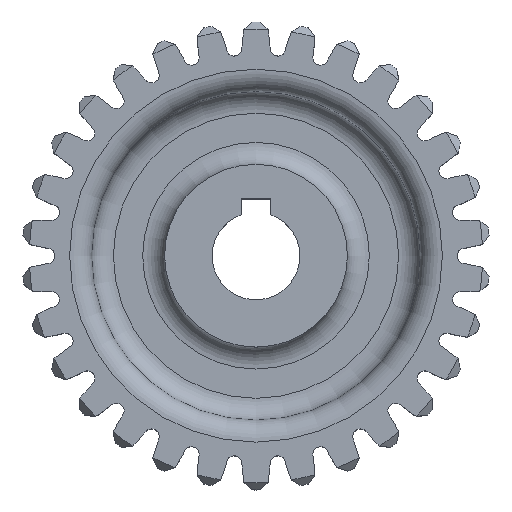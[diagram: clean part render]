
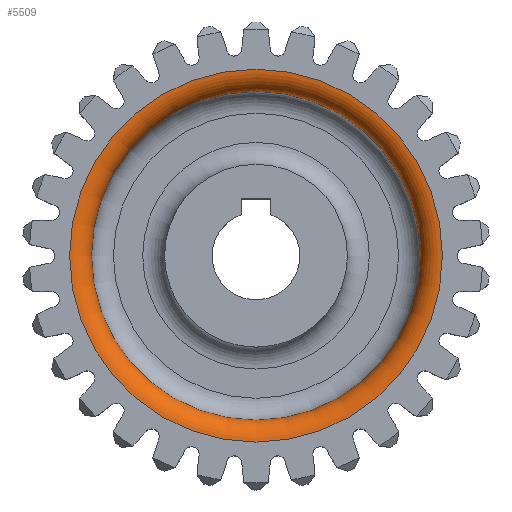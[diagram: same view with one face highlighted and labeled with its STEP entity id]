
A CAD part, top view. The second image highlights one B-rep face of the part: STEP entity #5509.
In plain terms, the highlighted toroidal (fillet/blend) face has major radius 25.5 mm and minor radius 3 mm.
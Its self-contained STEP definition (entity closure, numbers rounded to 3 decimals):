
#317=FACE_BOUND($,#1259,.T.);
#325=TOROIDAL_SURFACE($,#5831,25.5,3.);
#332=CIRCLE($,#5830,22.5);
#333=CIRCLE($,#5832,25.5);
#944=FACE_OUTER_BOUND($,#1258,.T.);
#1258=EDGE_LOOP($,(#3622));
#1259=EDGE_LOOP($,(#3623));
#2078=VERTEX_POINT($,#8325);
#2079=VERTEX_POINT($,#8328);
#2696=EDGE_CURVE($,#2078,#2078,#332,.T.);
#2697=EDGE_CURVE($,#2079,#2079,#333,.T.);
#3622=ORIENTED_EDGE($,*,*,#2696,.T.);
#3623=ORIENTED_EDGE($,*,*,#2697,.T.);
#5509=ADVANCED_FACE($,(#944,#317),#325,.T.);
#5830=AXIS2_PLACEMENT_3D($,#8326,#6596,#6597);
#5831=AXIS2_PLACEMENT_3D($,#8327,#6598,#6599);
#5832=AXIS2_PLACEMENT_3D($,#8329,#6600,#6601);
#6596=DIRECTION('center_axis',(0.,0.,-1.));
#6597=DIRECTION('ref_axis',(0.,-1.,0.));
#6598=DIRECTION('center_axis',(0.,0.,-1.));
#6599=DIRECTION('ref_axis',(-1.,0.,0.));
#6600=DIRECTION('center_axis',(0.,0.,1.));
#6601=DIRECTION('ref_axis',(0.,-1.,0.));
#8325=CARTESIAN_POINT('',(0.,22.532,10.));
#8326=CARTESIAN_POINT('Origin',(0.,0.032,10.));
#8327=CARTESIAN_POINT('Origin',(0.,0.032,10.));
#8328=CARTESIAN_POINT('',(0.,25.532,13.));
#8329=CARTESIAN_POINT('Origin',(0.,0.032,13.));
